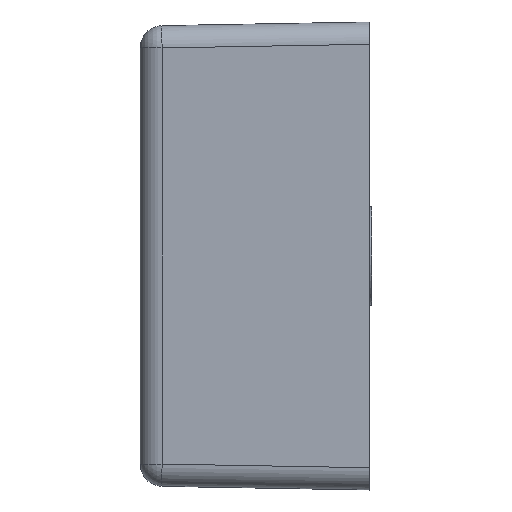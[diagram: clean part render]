
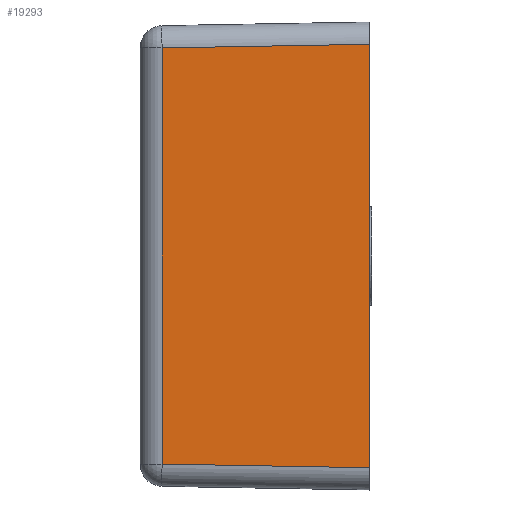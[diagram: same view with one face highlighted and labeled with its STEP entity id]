
A CAD part, left-side view. The second image highlights one B-rep face of the part: STEP entity #19293.
In plain terms, the highlighted planar face has unit normal (-1, 0.018, 0).
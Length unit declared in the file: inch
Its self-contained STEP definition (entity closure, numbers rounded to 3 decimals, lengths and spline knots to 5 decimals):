
#20 = CARTESIAN_POINT ( 'NONE',  ( -1.45163, -0.13474, 0.17564 ) ) ;
#199 = VECTOR ( 'NONE', #7074, 39.37008 ) ;
#790 = CARTESIAN_POINT ( 'NONE',  ( -1.45153, -0.12896, 0.17574 ) ) ;
#1475 = DIRECTION ( 'NONE',  ( 0.017, 1., -0.017 ) ) ;
#1639 = VECTOR ( 'NONE', #1475, 39.37008 ) ;
#2010 = EDGE_CURVE ( 'NONE', #11845, #8589, #3038, .T. ) ;
#2352 = ORIENTED_EDGE ( 'NONE', *, *, #9036, .T. ) ;
#2541 = VECTOR ( 'NONE', #12912, 39.37008 ) ;
#2890 = ORIENTED_EDGE ( 'NONE', *, *, #5668, .T. ) ;
#3038 = LINE ( 'NONE', #20555, #1639 ) ;
#3701 = ORIENTED_EDGE ( 'NONE', *, *, #2010, .T. ) ;
#5334 = CARTESIAN_POINT ( 'NONE',  ( -1.45161, -0.13385, 0.45592 ) ) ;
#5625 = CARTESIAN_POINT ( 'NONE',  ( -1.44684, 0.13961, 0.45592 ) ) ;
#5668 = EDGE_CURVE ( 'NONE', #8589, #17807, #13957, .T. ) ;
#5934 = ORIENTED_EDGE ( 'NONE', *, *, #8165, .F. ) ;
#7074 = DIRECTION ( 'NONE',  ( -0.017, -1., -0.017 ) ) ;
#7258 = AXIS2_PLACEMENT_3D ( 'NONE', #5334, #8879, #19931 ) ;
#8165 = EDGE_CURVE ( 'NONE', #11845, #9641, #14483, .T. ) ;
#8589 = VERTEX_POINT ( 'NONE', #16375 ) ;
#8745 = CARTESIAN_POINT ( 'NONE',  ( -1.44684, 0.13961, 0.18043 ) ) ;
#8879 = DIRECTION ( 'NONE',  ( -1., 0.017, 0. ) ) ;
#8953 = DIRECTION ( 'NONE',  ( 0., 0., -1. ) ) ;
#9036 = EDGE_CURVE ( 'NONE', #17807, #9641, #18219, .T. ) ;
#9641 = VERTEX_POINT ( 'NONE', #20 ) ;
#9731 = FACE_OUTER_BOUND ( 'NONE', #14722, .T. ) ;
#11845 = VERTEX_POINT ( 'NONE', #18965 ) ;
#12912 = DIRECTION ( 'NONE',  ( 0., 0., -1. ) ) ;
#13957 = LINE ( 'NONE', #5625, #19452 ) ;
#14483 = LINE ( 'NONE', #14893, #2541 ) ;
#14722 = EDGE_LOOP ( 'NONE', ( #5934, #3701, #2890, #2352 ) ) ;
#14893 = CARTESIAN_POINT ( 'NONE',  ( -1.45163, -0.13474, 0.45592 ) ) ;
#16109 = PLANE ( 'NONE',  #7258 ) ;
#16375 = CARTESIAN_POINT ( 'NONE',  ( -1.44684, 0.13961, 0.73142 ) ) ;
#17807 = VERTEX_POINT ( 'NONE', #8745 ) ;
#18219 = LINE ( 'NONE', #790, #199 ) ;
#18965 = CARTESIAN_POINT ( 'NONE',  ( -1.45163, -0.13474, 0.73621 ) ) ;
#19293 = ADVANCED_FACE ( 'NONE', ( #9731 ), #16109, .T. ) ;
#19452 = VECTOR ( 'NONE', #8953, 39.37008 ) ;
#19931 = DIRECTION ( 'NONE',  ( -0.017, -1., 0. ) ) ;
#20555 = CARTESIAN_POINT ( 'NONE',  ( -1.44634, 0.16811, 0.73092 ) ) ;
